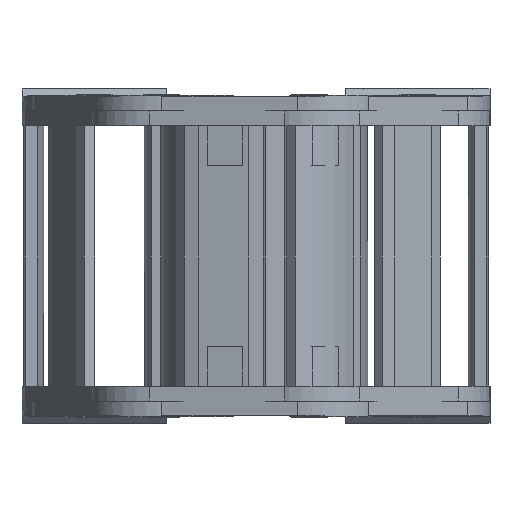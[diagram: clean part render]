
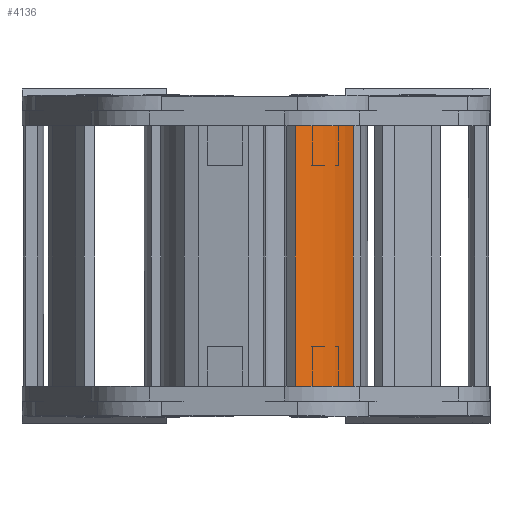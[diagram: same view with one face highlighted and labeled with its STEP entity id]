
A CAD part, left-side view. The second image highlights one B-rep face of the part: STEP entity #4136.
In plain terms, the highlighted cylindrical face has radius 52 mm (diameter 104 mm), a partial arc.
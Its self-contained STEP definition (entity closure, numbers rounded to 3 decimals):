
#3907=CARTESIAN_POINT('',(0.,-103.5,37.5));
#3908=DIRECTION('',(0.,0.,1.));
#3909=DIRECTION('',(0.346,0.938,0.));
#3910=AXIS2_PLACEMENT_3D('',#3907,#3908,#3909);
#3950=DIRECTION('',(0.,0.,-1.));
#3951=VECTOR('',#3950,117.4);
#3952=CARTESIAN_POINT('',(18.,-54.715,37.5));
#3953=LINE('',#3952,#3951);
#3957=DIRECTION('',(0.,0.,1.));
#3958=VECTOR('',#3957,117.4);
#3959=CARTESIAN_POINT('',(-18.,-54.715,-79.9));
#3960=LINE('',#3959,#3958);
#3971=CARTESIAN_POINT('',(0.,-103.5,-79.9));
#3972=DIRECTION('',(0.,0.,-1.));
#3973=DIRECTION('',(-0.346,0.938,0.));
#3974=AXIS2_PLACEMENT_3D('',#3971,#3972,#3973);
#4029=CARTESIAN_POINT('',(18.,-54.715,-79.9));
#4031=VERTEX_POINT('',#4029);
#4032=CARTESIAN_POINT('',(-18.,-54.715,-79.9));
#4033=VERTEX_POINT('',#4032);
#4040=CARTESIAN_POINT('',(18.,-54.715,37.5));
#4041=VERTEX_POINT('',#4040);
#4044=CARTESIAN_POINT('',(-18.,-54.715,37.5));
#4045=VERTEX_POINT('',#4044);
#4122=CARTESIAN_POINT('',(0.,-103.5,-4.9));
#4123=DIRECTION('',(0.,0.,-1.));
#4124=DIRECTION('',(1.,0.,0.));
#4125=AXIS2_PLACEMENT_3D('',#4122,#4123,#4124);
#4126=CYLINDRICAL_SURFACE('',#4125,52.);
#4128=ORIENTED_EDGE('',*,*,#4127,.F.);
#4129=ORIENTED_EDGE('',*,*,#4102,.T.);
#4131=ORIENTED_EDGE('',*,*,#4130,.F.);
#4133=ORIENTED_EDGE('',*,*,#4132,.T.);
#4134=EDGE_LOOP('',(#4128,#4129,#4131,#4133));
#4135=FACE_OUTER_BOUND('',#4134,.F.);
#4136=ADVANCED_FACE('',(#4135),#4126,.T.);
#3911=CIRCLE('',#3910,52.);
#3975=CIRCLE('',#3974,52.);
#4102=EDGE_CURVE('',#4041,#4045,#3911,.T.);
#4127=EDGE_CURVE('',#4041,#4031,#3953,.T.);
#4130=EDGE_CURVE('',#4033,#4045,#3960,.T.);
#4132=EDGE_CURVE('',#4033,#4031,#3975,.T.);
